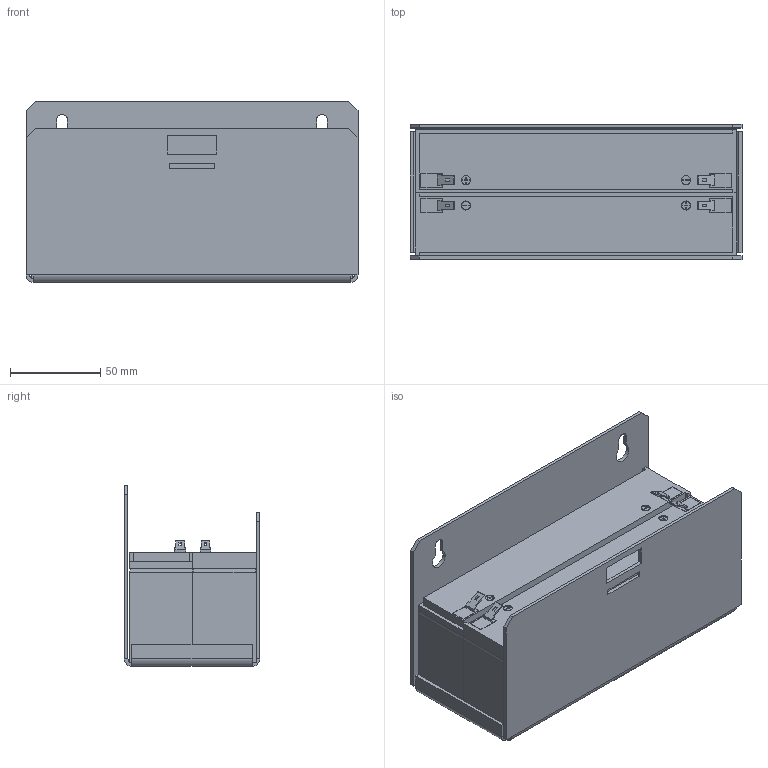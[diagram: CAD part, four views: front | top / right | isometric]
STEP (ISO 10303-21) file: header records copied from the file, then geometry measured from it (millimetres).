
FILE_DESCRIPTION(/* description */ ('NBBH 2402 Batteriemodul'),/* implementation_level */ '2;1');
FILE_NAME(/* name */ 'C:\VAULT_WORKSPACE\Designs\EE\Q33G1001\Q33G1M04-A.stp',/* time_stamp */ '2020-02-04T09:57:12+01:00',/* author */ ('mhe'),/* organization */ (''),/* preprocessor_version */ 'ST-DEVELOPER v17',/* originating_system */ 'Autodesk Inventor 2018',/* authorisation */ '');
FILE_SCHEMA (('AUTOMOTIVE_DESIGN { 1 0 10303 214 3 1 1 }'));
Length unit declared in the file: millimetre
Products named in the file (3): Q33G1M04; 12V / 2.3Ah; Q33G1K13
Assembly tree (3 placements, depth 2):
  Q33G1M04
    12V / 2.3Ah  x2
    Q33G1K13
Bounding box: 184 x 75 x 100 mm (x, y, z)
Volume: 846036.2 mm3; surface area: 174191.3 mm2
Topology: 3 solids, 3 shells, 252 faces, 632 edges, 404 vertices
Faces by surface type: plane 232, cylinder 20
Full cylindrical faces by diameter (mm): 4 x4, 5 x4
Entity records: 4904 total; most frequent: CARTESIAN_POINT 827, ORIENTED_EDGE 808, DIRECTION 778, EDGE_CURVE 404, LINE 364, VECTOR 364, VERTEX_POINT 256, AXIS2_PLACEMENT_3D 207
